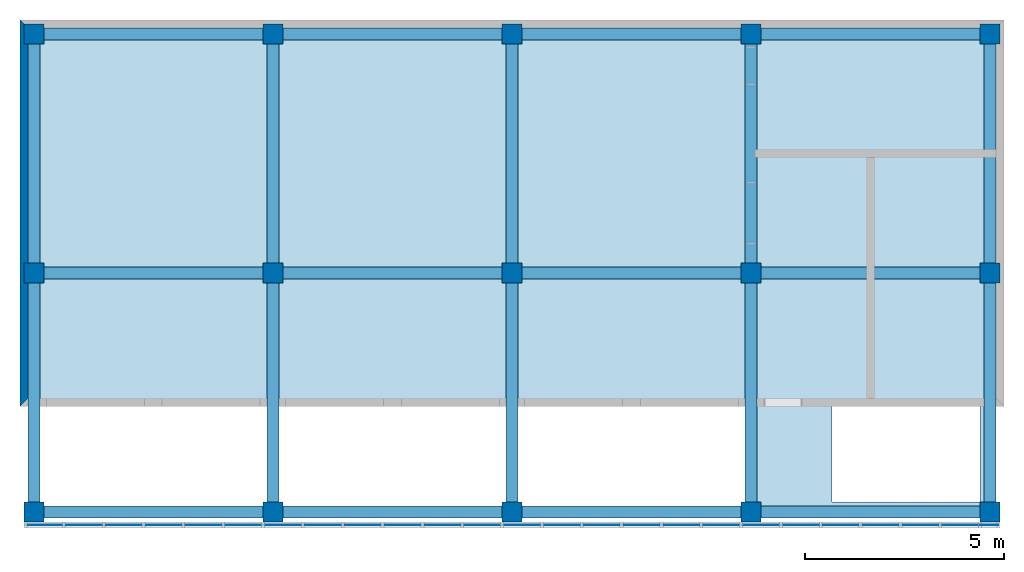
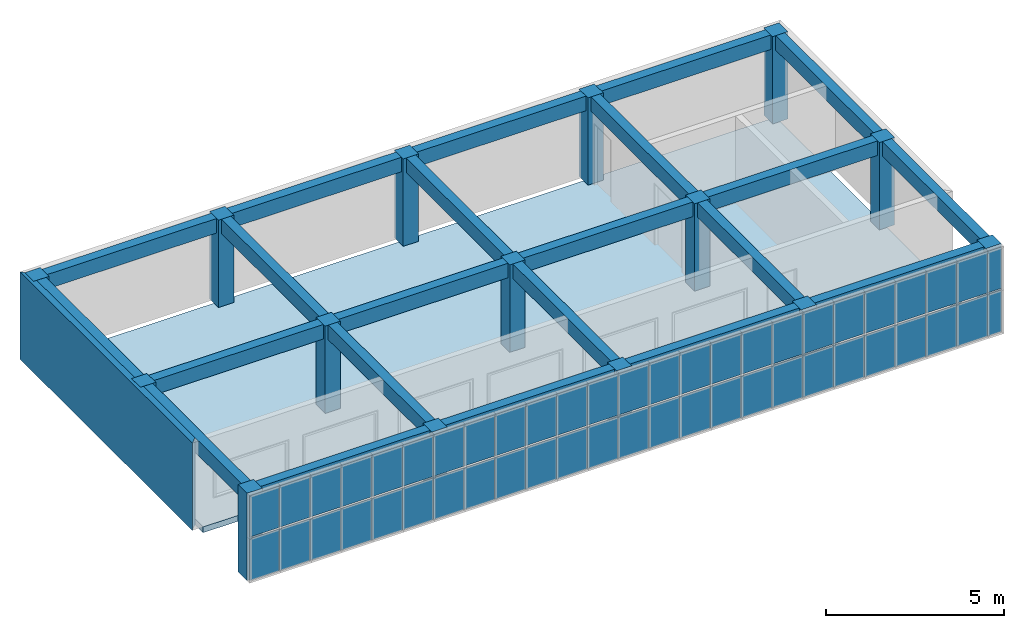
# One storey, part 1 of 4: 50 plates, 22 beams, 15 columns, 1 slab, 1 wall, 1 opening, 1 element without a shape of its own.
"""IFC2X3 building model written with IfcOpenShell, lengths in millimetres."""

import ifcopenshell
import ifcopenshell.guid

model = None  # the IFC model being written
_history = None  # IfcOwnerHistory: only IFC2X3 demands one
_inside = {}  # id of a spatial element -> (the spatial element, [elements in it])
_under = {}  # id of a project, library or spatial element -> (it, [spatial elements below it])
_declared = {}  # id of a project -> (the project, [libraries it declares])
_typed = {}  # id of a type object -> (the type object, [elements of that type])
_made_of = {}  # id of a material, layer set ... -> (it, [elements and type objects made of it])


def new_model(schema):
    """Start an empty IFC model of exactly this schema.

    Asked for "IFC4X3", IfcOpenShell would pick the latest addendum, in which some entities
    have other attributes; the version numbers below select the first issue.
    IFC2X3 requires an IfcOwnerHistory on every rooted entity: one is made here for all.
    """
    global model, _history
    if schema == "IFC4X3":
        model = ifcopenshell.file(schema_version=(4, 3, 0, 0))
    else:
        model = ifcopenshell.file(schema=schema)
    _inside.clear()
    _under.clear()
    _declared.clear()
    _typed.clear()
    _made_of.clear()
    _history = None
    if model.schema == "IFC2X3":
        org = make("IfcOrganization", Name="unknown")
        user = make(
            "IfcPersonAndOrganization",
            ThePerson=make("IfcPerson", FamilyName="unknown"),
            TheOrganization=org,
        )
        app = make(
            "IfcApplication",
            ApplicationDeveloper=org,
            Version="unknown",
            ApplicationFullName="unknown",
            ApplicationIdentifier="unknown",
        )
        _history = make(
            "IfcOwnerHistory",
            OwningUser=user,
            OwningApplication=app,
            ChangeAction="ADDED",
            CreationDate=0,
        )
    return model


def make(cls, **values):
    """One entity of the class cls with the attributes given. An attribute that is None is left unset."""
    return model.create_entity(
        cls, **{name: value for name, value in values.items() if value is not None}
    )


def entity(cls, *values):
    """Any entity or typed value of the class cls, its attributes in the order of the schema. None: left unset."""
    e = model.create_entity(cls)
    for i, value in enumerate(values):
        if value is not None:
            e[i] = value
    return e


def rooted(cls, **values):
    """An entity with a GlobalId (a new one), such as an element, a storey or a relation."""
    return make(cls, GlobalId=ifcopenshell.guid.new(), OwnerHistory=_history, **values)


def si_unit(unit_type, name, prefix=None):
    """IfcSIUnit, for example si_unit("LENGTHUNIT", "METRE", prefix="MILLI")."""
    return make("IfcSIUnit", UnitType=unit_type, Prefix=prefix, Name=name)


def converted_unit(unit_type, name, factor, base, dimensions=None, offset=None):
    """IfcConversionBasedUnit, such as the inch: factor (a typed value) times the base unit."""
    return make(
        "IfcConversionBasedUnit"
        if offset is None
        else "IfcConversionBasedUnitWithOffset",
        ConversionOffset=offset,
        Dimensions=None
        if dimensions is None
        else entity("IfcDimensionalExponents", *dimensions),
        UnitType=unit_type,
        Name=name,
        ConversionFactor=make(
            "IfcMeasureWithUnit", ValueComponent=factor, UnitComponent=base
        ),
    )


def assignment(units):
    """IfcUnitAssignment: the units of a project."""
    return None if units is None else make("IfcUnitAssignment", Units=units)


def point(xyz):
    """IfcCartesianPoint."""
    return None if xyz is None else make("IfcCartesianPoint", Coordinates=xyz)


def direction(xyz):
    """IfcDirection."""
    return None if xyz is None else make("IfcDirection", DirectionRatios=xyz)


def frame(location, z_axis=None, x_axis=None):
    """IfcAxis2Placement3D, a coordinate frame: its origin and axes. An axis left out is left unset."""
    return make(
        "IfcAxis2Placement3D",
        Location=point(location),
        Axis=direction(z_axis),
        RefDirection=direction(x_axis),
    )


def frame_2d(location, x_axis=None):
    """IfcAxis2Placement2D, a coordinate frame in the plane: its origin and x axis."""
    return make(
        "IfcAxis2Placement2D", Location=point(location), RefDirection=direction(x_axis)
    )


def origin_with_axes():
    """The frame at (0, 0, 0) with the z axis (0, 0, 1) and the x axis (1, 0, 0) written out."""
    return frame((0.0, 0.0, 0.0), z_axis=(0.0, 0.0, 1.0), x_axis=(1.0, 0.0, 0.0))


def origin_2d_with_axis():
    """The frame at (0, 0) in the plane with the x axis (1, 0) written out."""
    return frame_2d((0.0, 0.0), x_axis=(1.0, 0.0))


def place(relative_to, where):
    """IfcLocalPlacement: puts the frame where relative to a parent placement (None: the world)."""
    return make(
        "IfcLocalPlacement", PlacementRelTo=relative_to, RelativePlacement=where
    )


def context(
    kind, dimensions, precision=None, world=None, true_north=None, identifier=None
):
    """IfcGeometricRepresentationContext, for example the 3D "Model" context."""
    return make(
        "IfcGeometricRepresentationContext",
        ContextIdentifier=identifier,
        ContextType=kind,
        CoordinateSpaceDimension=dimensions,
        Precision=precision,
        WorldCoordinateSystem=world,
        TrueNorth=true_north,
    )


def project(units=None, contexts=None):
    """IfcProject with its units and contexts."""
    return rooted(
        "IfcProject",
        Name="project",
        RepresentationContexts=contexts,
        UnitsInContext=assignment(units),
    )


def spatial(cls, under=None, at=None, **own):
    """A site, building, storey or space (cls), placed at a placement, below another one or the project."""
    s = rooted(cls, ObjectPlacement=at, **own)
    if under is not None:
        _under.setdefault(under.id(), (under, []))[1].append(s)
    return s


def polyline(points):
    """IfcPolyline through the points."""
    return make("IfcPolyline", Points=[point(p) for p in points])


def profile(cls, at=None, kind="AREA", **sizes):
    """A parametric profile (cls). Its sizes go by their IFC names, for example OverallWidth=200.0."""
    return make(cls, ProfileType=kind, Position=at, **sizes)


def rectangle(**sizes):
    """IfcRectangleProfileDef."""
    return profile("IfcRectangleProfileDef", **sizes)


def outline(outer, holes=None, kind="AREA"):
    """IfcArbitraryClosedProfileDef: a profile drawn as a closed curve; with holes, ...WithVoids."""
    if holes is None:
        return make("IfcArbitraryClosedProfileDef", ProfileType=kind, OuterCurve=outer)
    return make(
        "IfcArbitraryProfileDefWithVoids",
        ProfileType=kind,
        OuterCurve=outer,
        InnerCurves=holes,
    )


def extrude(swept, where, along, depth):
    """IfcExtrudedAreaSolid: the profile swept, set in the frame where, extruded along a direction by depth."""
    return make(
        "IfcExtrudedAreaSolid",
        SweptArea=swept,
        Position=where,
        ExtrudedDirection=direction(along),
        Depth=depth,
    )


def shape(context_of_items, identifier, shape_type, items):
    """IfcShapeRepresentation: the items that make up one representation, for example the "Body"."""
    return make(
        "IfcShapeRepresentation",
        ContextOfItems=context_of_items,
        RepresentationIdentifier=identifier,
        RepresentationType=shape_type,
        Items=items,
    )


def source(mapping_origin, context_of_items, identifier, shape_type, items):
    """IfcRepresentationMap: a shape defined once, which mapped items show again and again."""
    return make(
        "IfcRepresentationMap",
        MappingOrigin=mapping_origin,
        MappedRepresentation=shape(context_of_items, identifier, shape_type, items),
    )


def transform(
    local_origin,
    x_axis=None,
    y_axis=None,
    z_axis=None,
    scale=None,
    scale2=None,
    scale3=None,
    uniform=True,
):
    """IfcCartesianTransformationOperator3D, or its non-uniform kind. x_axis, y_axis, z_axis: its Axis1, 2, 3."""
    if uniform:
        return make(
            "IfcCartesianTransformationOperator3D",
            Axis1=direction(x_axis),
            Axis2=direction(y_axis),
            LocalOrigin=point(local_origin),
            Scale=scale,
            Axis3=direction(z_axis),
        )
    return make(
        "IfcCartesianTransformationOperator3DnonUniform",
        Axis1=direction(x_axis),
        Axis2=direction(y_axis),
        LocalOrigin=point(local_origin),
        Scale=scale,
        Axis3=direction(z_axis),
        Scale2=scale2,
        Scale3=scale3,
    )


def mapped(mapping_source, mapping_target):
    """IfcMappedItem: shows the shape of a source again, moved by a transform."""
    return make(
        "IfcMappedItem", MappingSource=mapping_source, MappingTarget=mapping_target
    )


def material(Name=None, Category=None):
    """IfcMaterial."""
    return make("IfcMaterial", Name=Name, Category=Category)


def layer(
    of_material, thickness, ventilated=None, Name=None, Category=None, Priority=None
):
    """IfcMaterialLayer: one layer of a wall or slab, of a material (None: an air gap)."""
    return make(
        "IfcMaterialLayer",
        Material=of_material,
        LayerThickness=thickness,
        IsVentilated=ventilated,
        Name=Name,
        Category=Category,
        Priority=Priority,
    )


def layer_set(layers, Name=None):
    """IfcMaterialLayerSet."""
    return make("IfcMaterialLayerSet", MaterialLayers=layers, LayerSetName=Name)


def layer_usage(for_layer_set, set_direction, sense, offset, extent=None):
    """IfcMaterialLayerSetUsage: how a layer set lies in its element."""
    return make(
        "IfcMaterialLayerSetUsage",
        ForLayerSet=for_layer_set,
        LayerSetDirection=set_direction,
        DirectionSense=sense,
        OffsetFromReferenceLine=offset,
        ReferenceExtent=extent,
    )


def made_of(thing, what):
    """Note that an element or type object is made of a material, layer set ...; save() writes the relation."""
    if what is not None:
        _made_of.setdefault(what.id(), (what, []))[1].append(thing)
    return thing


def type_object(cls, material=None, **own):
    """A type object (cls), such as IfcWallType, which elements share."""
    return made_of(rooted(cls, **own), material)


def element(
    cls,
    number,
    at=None,
    inside=None,
    cuts=None,
    type_object=None,
    material=None,
    context=None,
    identifier="Body",
    shape_type=None,
    held_by="IfcProductDefinitionShape",
    body=None,
    shapes=None,
    **own,
):
    """One element of the class cls, such as IfcWall. Its Tag is "e" and its number.

    at: its placement. inside: the storey or other place that contains it. cuts: it is an
    opening in that element (IfcRelVoidsElement). A single representation is given by context,
    identifier, shape_type and body (its items); several are given by shapes. held_by: the class
    of the entity that holds the representations. save() writes the other relations.
    """
    e = rooted(cls, Tag="e%d" % number, ObjectPlacement=at, **own)
    if body is not None:
        shapes = [shape(context, identifier, shape_type, body)]
    if shapes is not None:
        e.Representation = make(held_by, Representations=shapes)
    if inside is not None:
        _inside.setdefault(inside.id(), (inside, []))[1].append(e)
    if cuts is not None:
        rooted(
            "IfcRelVoidsElement", RelatingBuildingElement=cuts, RelatedOpeningElement=e
        )
    if type_object is not None:
        _typed.setdefault(type_object.id(), (type_object, []))[1].append(e)
    return made_of(e, material)


def aggregate(whole, parts):
    """IfcRelAggregates: a whole, such as a stair, and the parts it consists of."""
    return rooted("IfcRelAggregates", RelatingObject=whole, RelatedObjects=parts)


def save(model, path):
    """Write the relations noted so far, then the file.

    IfcRelAggregates (storeys below a building ...), IfcRelContainedInSpatialStructure (elements
    in a storey), IfcRelDefinesByType, IfcRelAssociatesMaterial and IfcRelDeclares: one each for
    every whole, place, type object, material and project.
    """
    for whole, parts in _under.values():
        aggregate(whole, parts)
    for where, things in _inside.values():
        rooted(
            "IfcRelContainedInSpatialStructure",
            RelatedElements=things,
            RelatingStructure=where,
        )
    for kind, things in _typed.values():
        rooted("IfcRelDefinesByType", RelatedObjects=things, RelatingType=kind)
    for what, things in _made_of.values():
        rooted("IfcRelAssociatesMaterial", RelatedObjects=things, RelatingMaterial=what)
    for by, libraries in _declared.values():
        rooted("IfcRelDeclares", RelatingContext=by, RelatedDefinitions=libraries)
    model.write(path)


model = new_model("IFC2X3")

# Units and contexts
model_context = context("Model", 3, precision=1e-05, world=origin_with_axes(), true_north=direction((6.123234e-17, 1.0)))
plan_context = context("Plan", 3, precision=1e-05, world=origin_with_axes(), true_north=direction((6.123234e-17, 1.0)))
ifc_project = project(units=[si_unit("LENGTHUNIT", "METRE", prefix="MILLI"), si_unit("AREAUNIT", "SQUARE_METRE"), si_unit("VOLUMEUNIT", "CUBIC_METRE"), converted_unit("PLANEANGLEUNIT", "DEGREE", entity("IfcPlaneAngleMeasure", 0.017453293), si_unit("PLANEANGLEUNIT", "RADIAN"), dimensions=[0, 0, 0, 0, 0, 0, 0]), si_unit("SOLIDANGLEUNIT", "STERADIAN"), si_unit("MASSUNIT", "GRAM"), si_unit("TIMEUNIT", "SECOND"), si_unit("THERMODYNAMICTEMPERATUREUNIT", "DEGREE_CELSIUS"), si_unit("LUMINOUSINTENSITYUNIT", "LUMEN")], contexts=[model_context, plan_context])

# Site, building, storey
site_placement = place(None, origin_with_axes())
site = spatial("IfcSite", under=ifc_project, at=site_placement, Name="\x8aO\x8d\\", CompositionType="ELEMENT")
building_placement = place(site_placement, origin_with_axes())
building = spatial("IfcBuilding", under=site, at=building_placement, Name="20101105_ArchCADMagic_002", CompositionType="ELEMENT")
storey_placement = place(building_placement, frame((0.0, 0.0, 3450.0), z_axis=(0.0, 0.0, 1.0), x_axis=(1.0, 0.0, 0.0)))
storey = spatial("IfcBuildingStorey", under=building, at=storey_placement, Name="1. 2\x8aK", CompositionType="ELEMENT", Elevation=3450.0)

# Columns
ifc_material = material(Name="\x83R\x83\x93\x83N\x83\x8a\x81[\x83g-\x8d\\\x91¢2")
for number, where, z_axis, x_axis, name in (
    (1, (0.0, 0.0, 0.0), (0.0, 0.0, 1.0), (1.0, 0.0, 0.0), "C2"),
    (2, (-1.669355e-12, 6000.0, 0.0), (0.0, 0.0, 1.0), (1.0, 0.0, 0.0), "C1"),
    (3, (-7.044814e-13, 12000.0, 0.0), (0.0, 0.0, 1.0), (1.0, 0.0, 0.0), "C2"),
    (4, (6000.0, 0.0, 0.0), (0.0, 0.0, 1.0), (1.0, 0.0, 0.0), "C3"),
    (5, (6000.0, 6000.0, 0.0), (0.0, 0.0, 1.0), (1.0, 0.0, 0.0), "C4"),
    (6, (6000.0, 12000.0, 0.0), (0.0, 0.0, 1.0), (1.0, 0.0, 0.0), "C5"),
    (7, (12000.0, 0.0, 0.0), (0.0, 0.0, 1.0), (1.0, 0.0, 0.0), "C6"),
    (8, (12000.0, 6000.0, 0.0), (0.0, 0.0, 1.0), (1.0, 0.0, 0.0), "C7"),
    (9, (12000.0, 12000.0, 0.0), (0.0, 0.0, 1.0), (1.0, 0.0, 0.0), "C8"),
    (10, (18000.0, 0.0, 0.0), (0.0, 0.0, 1.0), (1.0, 0.0, 0.0), "C9"),
    (11, (18000.0, 6000.0, 0.0), (0.0, 0.0, 1.0), (1.0, 0.0, 0.0), "C0"),
    (12, (18000.0, 12000.0, 0.0), (0.0, 0.0, 1.0), (1.0, 0.0, 0.0), "C1"),
    (13, (24000.0, 0.0, 0.0), (0.0, 0.0, 1.0), (1.0, 0.0, 0.0), "C2"),
    (14, (24000.0, 6000.0, 0.0), (0.0, 0.0, 1.0), (1.0, 0.0, 0.0), "C3"),
    (15, (24000.0, 12000.0, 0.0), (0.0, 0.0, 1.0), (1.0, 0.0, 0.0), "C4"),
):
    element("IfcColumn", number, at=place(storey_placement, frame(where, z_axis=z_axis, x_axis=x_axis)), inside=storey, material=ifc_material, Name=name, context=model_context, shape_type="SweptSolid", body=[
        extrude(rectangle(XDim=500.0, YDim=500.0, at=origin_2d_with_axis()), origin_with_axes(), (0.0, 0.0, 1.0), 3000.0),
    ])

# Beams
for number, where, z_axis, x_axis, name in (
    (16, (18000.0, 12000.0, 3000.0), (0.0, 0.0, 1.0), (0.0, -1.0, 0.0), "G6"),
    (17, (18000.0, 6000.0, 3000.0), (0.0, 0.0, 1.0), (0.0, -1.0, 0.0), "G6"),
    (18, (0.0, 0.0, 3000.0), (0.0, 0.0, 1.0), (1.0, 0.0, 0.0), "G2"),
    (19, (-1.669355e-12, 6000.0, 3000.0), (0.0, 0.0, 1.0), (1.0, 0.0, 0.0), "G2"),
    (20, (6000.0, 0.0, 3000.0), (0.0, 0.0, 1.0), (1.0, 0.0, 0.0), "G2"),
    (21, (6000.0, 6000.0, 3000.0), (0.0, 0.0, 1.0), (1.0, 0.0, 0.0), "G2"),
    (22, (12000.0, 0.0, 3000.0), (0.0, 0.0, 1.0), (1.0, 0.0, 0.0), "G2"),
    (23, (12000.0, 6000.0, 3000.0), (0.0, 0.0, 1.0), (1.0, 0.0, 0.0), "G2"),
    (24, (18000.0, 0.0, 3000.0), (0.0, 0.0, 1.0), (1.0, 0.0, 0.0), "G2"),
    (25, (18000.0, 6000.0, 3000.0), (0.0, 0.0, 1.0), (1.0, 0.0, 0.0), "G2"),
    (26, (24000.0, 0.0, 3000.0), (0.0, 0.0, 1.0), (1.0, 0.0, 0.0), "G2"),
    (27, (24000.0, 6000.0, 3000.0), (0.0, 0.0, 1.0), (1.0, 0.0, 0.0), "G2"),
    (28, (0.0, 0.0, 3000.0), (0.0, 0.0, 1.0), (0.0, -1.0, 0.0), "G6"),
    (29, (8.8817842e-13, 6000.0, 3000.0), (0.0, 0.0, 1.0), (0.0, -1.0, 0.0), "G6"),
    (30, (1.7763568e-12, 12000.0, 3000.0), (0.0, 0.0, 1.0), (0.0, -1.0, 0.0), "G6"),
    (31, (6000.0, 0.0, 3000.0), (0.0, 0.0, 1.0), (0.0, -1.0, 0.0), "G6"),
    (32, (6000.0, 6000.0, 3000.0), (0.0, 0.0, 1.0), (0.0, -1.0, 0.0), "G6"),
    (33, (6000.0, 12000.0, 3000.0), (0.0, 0.0, 1.0), (0.0, -1.0, 0.0), "G6"),
    (34, (12000.0, 0.0, 3000.0), (0.0, 0.0, 1.0), (0.0, -1.0, 0.0), "G6"),
    (35, (12000.0, 6000.0, 3000.0), (0.0, 0.0, 1.0), (0.0, -1.0, 0.0), "G6"),
    (36, (12000.0, 12000.0, 3000.0), (0.0, 0.0, 1.0), (0.0, -1.0, 0.0), "G6"),
    (37, (18000.0, 0.0, 3000.0), (0.0, 0.0, 1.0), (0.0, -1.0, 0.0), "G6"),
):
    element("IfcBeam", number, at=place(storey_placement, frame(where, z_axis=z_axis, x_axis=x_axis)), inside=storey, material=ifc_material, Name=name, context=model_context, shape_type="SweptSolid", body=[
        extrude(rectangle(XDim=500.0, YDim=300.0, at=frame_2d((-250.0, 0.0), x_axis=(1.0, 0.0))), frame((0.0, 0.0, 0.0), z_axis=(0.0, 1.0, 0.0), x_axis=(0.0, 0.0, 1.0)), (0.0, 0.0, 1.0), 6000.0),
    ])

# Curtain wall, plates
curtain_wall_placement = place(storey_placement, frame((-250.0, -325.0, 0.0), z_axis=(0.0, 0.0, 1.0), x_axis=(1.0, 0.0, 0.0)))
curtain_wall = element("IfcCurtainWall", 38, at=curtain_wall_placement, inside=storey, Name="CW5")
plate_type = type_object("IfcPlateType", Name="AC12_CW_Panel", PredefinedType="NOTDEFINED")
shared_shape_1 = source(origin_with_axes(), model_context, "Body", "SweptSolid", [
    extrude(outline(polyline([(0.0, 0.0), (955.0, 0.0), (955.0, -20.0), (0.0, -20.0), (0.0, 0.0)])), origin_with_axes(), (0.0, 0.0, 1.0), 1430.0),
])
plate_1_placement = place(storey_placement, frame((-210.0, -315.0, 40.0), z_axis=(0.0, 0.0, 1.0), x_axis=(1.0, 0.0, 0.0)))
plate_1 = element("IfcPlate", 39, at=plate_1_placement, type_object=plate_type, Name="\x83\x81\x83C\x83\x93-511", context=model_context, shape_type="MappedRepresentation", body=[
    mapped(shared_shape_1, transform((0.0, 0.0, 0.0), scale=1.0)),
])
plate_2_placement = place(storey_placement, frame((-210.0, -315.0, 1530.0), z_axis=(0.0, 0.0, 1.0), x_axis=(1.0, 0.0, 0.0)))
plate_2 = element("IfcPlate", 40, at=plate_2_placement, type_object=plate_type, Name="\x83\x81\x83C\x83\x93-536", context=model_context, shape_type="MappedRepresentation", body=[
    mapped(shared_shape_1, transform((0.0, 0.0, 0.0), scale=1.0)),
])
shared_shape_2 = source(origin_with_axes(), model_context, "Body", "SweptSolid", [
    extrude(outline(polyline([(0.0, 0.0), (990.0, 0.0), (990.0, -20.0), (0.0, -20.0), (0.0, 0.0)])), origin_with_axes(), (0.0, 0.0, 1.0), 1430.0),
])
plate_3_placement = place(storey_placement, frame((755.0, -315.0, 40.0), z_axis=(0.0, 0.0, 1.0), x_axis=(1.0, 0.0, 0.0)))
plate_3 = element("IfcPlate", 41, at=plate_3_placement, type_object=plate_type, Name="\x83\x81\x83C\x83\x93-512", context=model_context, shape_type="MappedRepresentation", body=[
    mapped(shared_shape_2, transform((0.0, 0.0, 0.0), scale=1.0)),
])
plate_4_placement = place(storey_placement, frame((1755.0, -315.0, 40.0), z_axis=(0.0, 0.0, 1.0), x_axis=(1.0, 0.0, 0.0)))
plate_4 = element("IfcPlate", 42, at=plate_4_placement, type_object=plate_type, Name="\x83\x81\x83C\x83\x93-513", context=model_context, shape_type="MappedRepresentation", body=[
    mapped(shared_shape_2, transform((0.0, 0.0, 0.0), scale=1.0)),
])
plate_5_placement = place(storey_placement, frame((2755.0, -315.0, 40.0), z_axis=(0.0, 0.0, 1.0), x_axis=(1.0, 0.0, 0.0)))
plate_5 = element("IfcPlate", 43, at=plate_5_placement, type_object=plate_type, Name="\x83\x81\x83C\x83\x93-514", context=model_context, shape_type="MappedRepresentation", body=[
    mapped(shared_shape_2, transform((0.0, 0.0, 0.0), scale=1.0)),
])
plate_6_placement = place(storey_placement, frame((3755.0, -315.0, 40.0), z_axis=(0.0, 0.0, 1.0), x_axis=(1.0, 0.0, 0.0)))
plate_6 = element("IfcPlate", 44, at=plate_6_placement, type_object=plate_type, Name="\x83\x81\x83C\x83\x93-515", context=model_context, shape_type="MappedRepresentation", body=[
    mapped(shared_shape_2, transform((0.0, 0.0, 0.0), scale=1.0)),
])
plate_7_placement = place(storey_placement, frame((4755.0, -315.0, 40.0), z_axis=(0.0, 0.0, 1.0), x_axis=(1.0, 0.0, 0.0)))
plate_7 = element("IfcPlate", 45, at=plate_7_placement, type_object=plate_type, Name="\x83\x81\x83C\x83\x93-516", context=model_context, shape_type="MappedRepresentation", body=[
    mapped(shared_shape_2, transform((0.0, 0.0, 0.0), scale=1.0)),
])
plate_8_placement = place(storey_placement, frame((5755.0, -315.0, 40.0), z_axis=(0.0, 0.0, 1.0), x_axis=(1.0, 0.0, 0.0)))
plate_8 = element("IfcPlate", 46, at=plate_8_placement, type_object=plate_type, Name="\x83\x81\x83C\x83\x93-517", context=model_context, shape_type="MappedRepresentation", body=[
    mapped(shared_shape_2, transform((0.0, 0.0, 0.0), scale=1.0)),
])
plate_9_placement = place(storey_placement, frame((6755.0, -315.0, 40.0), z_axis=(0.0, 0.0, 1.0), x_axis=(1.0, 0.0, 0.0)))
plate_9 = element("IfcPlate", 47, at=plate_9_placement, type_object=plate_type, Name="\x83\x81\x83C\x83\x93-518", context=model_context, shape_type="MappedRepresentation", body=[
    mapped(shared_shape_2, transform((0.0, 0.0, 0.0), scale=1.0)),
])
plate_10_placement = place(storey_placement, frame((7755.0, -315.0, 40.0), z_axis=(0.0, 0.0, 1.0), x_axis=(1.0, 0.0, 0.0)))
plate_10 = element("IfcPlate", 48, at=plate_10_placement, type_object=plate_type, Name="\x83\x81\x83C\x83\x93-519", context=model_context, shape_type="MappedRepresentation", body=[
    mapped(shared_shape_2, transform((0.0, 0.0, 0.0), scale=1.0)),
])
plate_11_placement = place(storey_placement, frame((8755.0, -315.0, 40.0), z_axis=(0.0, 0.0, 1.0), x_axis=(1.0, 0.0, 0.0)))
plate_11 = element("IfcPlate", 49, at=plate_11_placement, type_object=plate_type, Name="\x83\x81\x83C\x83\x93-520", context=model_context, shape_type="MappedRepresentation", body=[
    mapped(shared_shape_2, transform((0.0, 0.0, 0.0), scale=1.0)),
])
plate_12_placement = place(storey_placement, frame((9755.0, -315.0, 40.0), z_axis=(0.0, 0.0, 1.0), x_axis=(1.0, 0.0, 0.0)))
plate_12 = element("IfcPlate", 50, at=plate_12_placement, type_object=plate_type, Name="\x83\x81\x83C\x83\x93-521", context=model_context, shape_type="MappedRepresentation", body=[
    mapped(shared_shape_2, transform((0.0, 0.0, 0.0), scale=1.0)),
])
plate_13_placement = place(storey_placement, frame((10755.0, -315.0, 40.0), z_axis=(0.0, 0.0, 1.0), x_axis=(1.0, 0.0, 0.0)))
plate_13 = element("IfcPlate", 51, at=plate_13_placement, type_object=plate_type, Name="\x83\x81\x83C\x83\x93-522", context=model_context, shape_type="MappedRepresentation", body=[
    mapped(shared_shape_2, transform((0.0, 0.0, 0.0), scale=1.0)),
])
plate_14_placement = place(storey_placement, frame((11755.0, -315.0, 40.0), z_axis=(0.0, 0.0, 1.0), x_axis=(1.0, 0.0, 0.0)))
plate_14 = element("IfcPlate", 52, at=plate_14_placement, type_object=plate_type, Name="\x83\x81\x83C\x83\x93-523", context=model_context, shape_type="MappedRepresentation", body=[
    mapped(shared_shape_2, transform((0.0, 0.0, 0.0), scale=1.0)),
])
plate_15_placement = place(storey_placement, frame((12755.0, -315.0, 40.0), z_axis=(0.0, 0.0, 1.0), x_axis=(1.0, 0.0, 0.0)))
plate_15 = element("IfcPlate", 53, at=plate_15_placement, type_object=plate_type, Name="\x83\x81\x83C\x83\x93-524", context=model_context, shape_type="MappedRepresentation", body=[
    mapped(shared_shape_2, transform((0.0, 0.0, 0.0), scale=1.0)),
])
plate_16_placement = place(storey_placement, frame((13755.0, -315.0, 40.0), z_axis=(0.0, 0.0, 1.0), x_axis=(1.0, 0.0, 0.0)))
plate_16 = element("IfcPlate", 54, at=plate_16_placement, type_object=plate_type, Name="\x83\x81\x83C\x83\x93-525", context=model_context, shape_type="MappedRepresentation", body=[
    mapped(shared_shape_2, transform((0.0, 0.0, 0.0), scale=1.0)),
])
plate_17_placement = place(storey_placement, frame((14755.0, -315.0, 40.0), z_axis=(0.0, 0.0, 1.0), x_axis=(1.0, 0.0, 0.0)))
plate_17 = element("IfcPlate", 55, at=plate_17_placement, type_object=plate_type, Name="\x83\x81\x83C\x83\x93-526", context=model_context, shape_type="MappedRepresentation", body=[
    mapped(shared_shape_2, transform((0.0, 0.0, 0.0), scale=1.0)),
])
plate_18_placement = place(storey_placement, frame((15755.0, -315.0, 40.0), z_axis=(0.0, 0.0, 1.0), x_axis=(1.0, 0.0, 0.0)))
plate_18 = element("IfcPlate", 56, at=plate_18_placement, type_object=plate_type, Name="\x83\x81\x83C\x83\x93-527", context=model_context, shape_type="MappedRepresentation", body=[
    mapped(shared_shape_2, transform((0.0, 0.0, 0.0), scale=1.0)),
])
plate_19_placement = place(storey_placement, frame((16755.0, -315.0, 40.0), z_axis=(0.0, 0.0, 1.0), x_axis=(1.0, 0.0, 0.0)))
plate_19 = element("IfcPlate", 57, at=plate_19_placement, type_object=plate_type, Name="\x83\x81\x83C\x83\x93-528", context=model_context, shape_type="MappedRepresentation", body=[
    mapped(shared_shape_2, transform((0.0, 0.0, 0.0), scale=1.0)),
])
plate_20_placement = place(storey_placement, frame((17755.0, -315.0, 40.0), z_axis=(0.0, 0.0, 1.0), x_axis=(1.0, 0.0, 0.0)))
plate_20 = element("IfcPlate", 58, at=plate_20_placement, type_object=plate_type, Name="\x83\x81\x83C\x83\x93-529", context=model_context, shape_type="MappedRepresentation", body=[
    mapped(shared_shape_2, transform((0.0, 0.0, 0.0), scale=1.0)),
])
plate_21_placement = place(storey_placement, frame((18755.0, -315.0, 40.0), z_axis=(0.0, 0.0, 1.0), x_axis=(1.0, 0.0, 0.0)))
plate_21 = element("IfcPlate", 59, at=plate_21_placement, type_object=plate_type, Name="\x83\x81\x83C\x83\x93-530", context=model_context, shape_type="MappedRepresentation", body=[
    mapped(shared_shape_2, transform((0.0, 0.0, 0.0), scale=1.0)),
])
plate_22_placement = place(storey_placement, frame((19755.0, -315.0, 40.0), z_axis=(0.0, 0.0, 1.0), x_axis=(1.0, 0.0, 0.0)))
plate_22 = element("IfcPlate", 60, at=plate_22_placement, type_object=plate_type, Name="\x83\x81\x83C\x83\x93-531", context=model_context, shape_type="MappedRepresentation", body=[
    mapped(shared_shape_2, transform((0.0, 0.0, 0.0), scale=1.0)),
])
plate_23_placement = place(storey_placement, frame((20755.0, -315.0, 40.0), z_axis=(0.0, 0.0, 1.0), x_axis=(1.0, 0.0, 0.0)))
plate_23 = element("IfcPlate", 61, at=plate_23_placement, type_object=plate_type, Name="\x83\x81\x83C\x83\x93-532", context=model_context, shape_type="MappedRepresentation", body=[
    mapped(shared_shape_2, transform((0.0, 0.0, 0.0), scale=1.0)),
])
plate_24_placement = place(storey_placement, frame((21755.0, -315.0, 40.0), z_axis=(0.0, 0.0, 1.0), x_axis=(1.0, 0.0, 0.0)))
plate_24 = element("IfcPlate", 62, at=plate_24_placement, type_object=plate_type, Name="\x83\x81\x83C\x83\x93-533", context=model_context, shape_type="MappedRepresentation", body=[
    mapped(shared_shape_2, transform((0.0, 0.0, 0.0), scale=1.0)),
])
plate_25_placement = place(storey_placement, frame((22755.0, -315.0, 40.0), z_axis=(0.0, 0.0, 1.0), x_axis=(1.0, 0.0, 0.0)))
plate_25 = element("IfcPlate", 63, at=plate_25_placement, type_object=plate_type, Name="\x83\x81\x83C\x83\x93-534", context=model_context, shape_type="MappedRepresentation", body=[
    mapped(shared_shape_2, transform((0.0, 0.0, 0.0), scale=1.0)),
])
plate_26_placement = place(storey_placement, frame((755.0, -315.0, 1530.0), z_axis=(0.0, 0.0, 1.0), x_axis=(1.0, 0.0, 0.0)))
plate_26 = element("IfcPlate", 64, at=plate_26_placement, type_object=plate_type, Name="\x83\x81\x83C\x83\x93-537", context=model_context, shape_type="MappedRepresentation", body=[
    mapped(shared_shape_2, transform((0.0, 0.0, 0.0), scale=1.0)),
])
plate_27_placement = place(storey_placement, frame((1755.0, -315.0, 1530.0), z_axis=(0.0, 0.0, 1.0), x_axis=(1.0, 0.0, 0.0)))
plate_27 = element("IfcPlate", 65, at=plate_27_placement, type_object=plate_type, Name="\x83\x81\x83C\x83\x93-538", context=model_context, shape_type="MappedRepresentation", body=[
    mapped(shared_shape_2, transform((0.0, 0.0, 0.0), scale=1.0)),
])
plate_28_placement = place(storey_placement, frame((2755.0, -315.0, 1530.0), z_axis=(0.0, 0.0, 1.0), x_axis=(1.0, 0.0, 0.0)))
plate_28 = element("IfcPlate", 66, at=plate_28_placement, type_object=plate_type, Name="\x83\x81\x83C\x83\x93-539", context=model_context, shape_type="MappedRepresentation", body=[
    mapped(shared_shape_2, transform((0.0, 0.0, 0.0), scale=1.0)),
])
plate_29_placement = place(storey_placement, frame((3755.0, -315.0, 1530.0), z_axis=(0.0, 0.0, 1.0), x_axis=(1.0, 0.0, 0.0)))
plate_29 = element("IfcPlate", 67, at=plate_29_placement, type_object=plate_type, Name="\x83\x81\x83C\x83\x93-540", context=model_context, shape_type="MappedRepresentation", body=[
    mapped(shared_shape_2, transform((0.0, 0.0, 0.0), scale=1.0)),
])
plate_30_placement = place(storey_placement, frame((4755.0, -315.0, 1530.0), z_axis=(0.0, 0.0, 1.0), x_axis=(1.0, 0.0, 0.0)))
plate_30 = element("IfcPlate", 68, at=plate_30_placement, type_object=plate_type, Name="\x83\x81\x83C\x83\x93-541", context=model_context, shape_type="MappedRepresentation", body=[
    mapped(shared_shape_2, transform((0.0, 0.0, 0.0), scale=1.0)),
])
plate_31_placement = place(storey_placement, frame((5755.0, -315.0, 1530.0), z_axis=(0.0, 0.0, 1.0), x_axis=(1.0, 0.0, 0.0)))
plate_31 = element("IfcPlate", 69, at=plate_31_placement, type_object=plate_type, Name="\x83\x81\x83C\x83\x93-542", context=model_context, shape_type="MappedRepresentation", body=[
    mapped(shared_shape_2, transform((0.0, 0.0, 0.0), scale=1.0)),
])
plate_32_placement = place(storey_placement, frame((6755.0, -315.0, 1530.0), z_axis=(0.0, 0.0, 1.0), x_axis=(1.0, 0.0, 0.0)))
plate_32 = element("IfcPlate", 70, at=plate_32_placement, type_object=plate_type, Name="\x83\x81\x83C\x83\x93-543", context=model_context, shape_type="MappedRepresentation", body=[
    mapped(shared_shape_2, transform((0.0, 0.0, 0.0), scale=1.0)),
])
plate_33_placement = place(storey_placement, frame((7755.0, -315.0, 1530.0), z_axis=(0.0, 0.0, 1.0), x_axis=(1.0, 0.0, 0.0)))
plate_33 = element("IfcPlate", 71, at=plate_33_placement, type_object=plate_type, Name="\x83\x81\x83C\x83\x93-544", context=model_context, shape_type="MappedRepresentation", body=[
    mapped(shared_shape_2, transform((0.0, 0.0, 0.0), scale=1.0)),
])
plate_34_placement = place(storey_placement, frame((8755.0, -315.0, 1530.0), z_axis=(0.0, 0.0, 1.0), x_axis=(1.0, 0.0, 0.0)))
plate_34 = element("IfcPlate", 72, at=plate_34_placement, type_object=plate_type, Name="\x83\x81\x83C\x83\x93-545", context=model_context, shape_type="MappedRepresentation", body=[
    mapped(shared_shape_2, transform((0.0, 0.0, 0.0), scale=1.0)),
])
plate_35_placement = place(storey_placement, frame((9755.0, -315.0, 1530.0), z_axis=(0.0, 0.0, 1.0), x_axis=(1.0, 0.0, 0.0)))
plate_35 = element("IfcPlate", 73, at=plate_35_placement, type_object=plate_type, Name="\x83\x81\x83C\x83\x93-546", context=model_context, shape_type="MappedRepresentation", body=[
    mapped(shared_shape_2, transform((0.0, 0.0, 0.0), scale=1.0)),
])
plate_36_placement = place(storey_placement, frame((10755.0, -315.0, 1530.0), z_axis=(0.0, 0.0, 1.0), x_axis=(1.0, 0.0, 0.0)))
plate_36 = element("IfcPlate", 74, at=plate_36_placement, type_object=plate_type, Name="\x83\x81\x83C\x83\x93-547", context=model_context, shape_type="MappedRepresentation", body=[
    mapped(shared_shape_2, transform((0.0, 0.0, 0.0), scale=1.0)),
])
plate_37_placement = place(storey_placement, frame((11755.0, -315.0, 1530.0), z_axis=(0.0, 0.0, 1.0), x_axis=(1.0, 0.0, 0.0)))
plate_37 = element("IfcPlate", 75, at=plate_37_placement, type_object=plate_type, Name="\x83\x81\x83C\x83\x93-548", context=model_context, shape_type="MappedRepresentation", body=[
    mapped(shared_shape_2, transform((0.0, 0.0, 0.0), scale=1.0)),
])
plate_38_placement = place(storey_placement, frame((12755.0, -315.0, 1530.0), z_axis=(0.0, 0.0, 1.0), x_axis=(1.0, 0.0, 0.0)))
plate_38 = element("IfcPlate", 76, at=plate_38_placement, type_object=plate_type, Name="\x83\x81\x83C\x83\x93-549", context=model_context, shape_type="MappedRepresentation", body=[
    mapped(shared_shape_2, transform((0.0, 0.0, 0.0), scale=1.0)),
])
plate_39_placement = place(storey_placement, frame((13755.0, -315.0, 1530.0), z_axis=(0.0, 0.0, 1.0), x_axis=(1.0, 0.0, 0.0)))
plate_39 = element("IfcPlate", 77, at=plate_39_placement, type_object=plate_type, Name="\x83\x81\x83C\x83\x93-550", context=model_context, shape_type="MappedRepresentation", body=[
    mapped(shared_shape_2, transform((0.0, 0.0, 0.0), scale=1.0)),
])
plate_40_placement = place(storey_placement, frame((14755.0, -315.0, 1530.0), z_axis=(0.0, 0.0, 1.0), x_axis=(1.0, 0.0, 0.0)))
plate_40 = element("IfcPlate", 78, at=plate_40_placement, type_object=plate_type, Name="\x83\x81\x83C\x83\x93-551", context=model_context, shape_type="MappedRepresentation", body=[
    mapped(shared_shape_2, transform((0.0, 0.0, 0.0), scale=1.0)),
])
plate_41_placement = place(storey_placement, frame((15755.0, -315.0, 1530.0), z_axis=(0.0, 0.0, 1.0), x_axis=(1.0, 0.0, 0.0)))
plate_41 = element("IfcPlate", 79, at=plate_41_placement, type_object=plate_type, Name="\x83\x81\x83C\x83\x93-552", context=model_context, shape_type="MappedRepresentation", body=[
    mapped(shared_shape_2, transform((0.0, 0.0, 0.0), scale=1.0)),
])
plate_42_placement = place(storey_placement, frame((16755.0, -315.0, 1530.0), z_axis=(0.0, 0.0, 1.0), x_axis=(1.0, 0.0, 0.0)))
plate_42 = element("IfcPlate", 80, at=plate_42_placement, type_object=plate_type, Name="\x83\x81\x83C\x83\x93-553", context=model_context, shape_type="MappedRepresentation", body=[
    mapped(shared_shape_2, transform((0.0, 0.0, 0.0), scale=1.0)),
])
plate_43_placement = place(storey_placement, frame((17755.0, -315.0, 1530.0), z_axis=(0.0, 0.0, 1.0), x_axis=(1.0, 0.0, 0.0)))
plate_43 = element("IfcPlate", 81, at=plate_43_placement, type_object=plate_type, Name="\x83\x81\x83C\x83\x93-554", context=model_context, shape_type="MappedRepresentation", body=[
    mapped(shared_shape_2, transform((0.0, 0.0, 0.0), scale=1.0)),
])
plate_44_placement = place(storey_placement, frame((18755.0, -315.0, 1530.0), z_axis=(0.0, 0.0, 1.0), x_axis=(1.0, 0.0, 0.0)))
plate_44 = element("IfcPlate", 82, at=plate_44_placement, type_object=plate_type, Name="\x83\x81\x83C\x83\x93-555", context=model_context, shape_type="MappedRepresentation", body=[
    mapped(shared_shape_2, transform((0.0, 0.0, 0.0), scale=1.0)),
])
plate_45_placement = place(storey_placement, frame((19755.0, -315.0, 1530.0), z_axis=(0.0, 0.0, 1.0), x_axis=(1.0, 0.0, 0.0)))
plate_45 = element("IfcPlate", 83, at=plate_45_placement, type_object=plate_type, Name="\x83\x81\x83C\x83\x93-556", context=model_context, shape_type="MappedRepresentation", body=[
    mapped(shared_shape_2, transform((0.0, 0.0, 0.0), scale=1.0)),
])
plate_46_placement = place(storey_placement, frame((20755.0, -315.0, 1530.0), z_axis=(0.0, 0.0, 1.0), x_axis=(1.0, 0.0, 0.0)))
plate_46 = element("IfcPlate", 84, at=plate_46_placement, type_object=plate_type, Name="\x83\x81\x83C\x83\x93-557", context=model_context, shape_type="MappedRepresentation", body=[
    mapped(shared_shape_2, transform((0.0, 0.0, 0.0), scale=1.0)),
])
plate_47_placement = place(storey_placement, frame((21755.0, -315.0, 1530.0), z_axis=(0.0, 0.0, 1.0), x_axis=(1.0, 0.0, 0.0)))
plate_47 = element("IfcPlate", 85, at=plate_47_placement, type_object=plate_type, Name="\x83\x81\x83C\x83\x93-558", context=model_context, shape_type="MappedRepresentation", body=[
    mapped(shared_shape_2, transform((0.0, 0.0, 0.0), scale=1.0)),
])
plate_48_placement = place(storey_placement, frame((22755.0, -315.0, 1530.0), z_axis=(0.0, 0.0, 1.0), x_axis=(1.0, 0.0, 0.0)))
plate_48 = element("IfcPlate", 86, at=plate_48_placement, type_object=plate_type, Name="\x83\x81\x83C\x83\x93-559", context=model_context, shape_type="MappedRepresentation", body=[
    mapped(shared_shape_2, transform((0.0, 0.0, 0.0), scale=1.0)),
])
shared_shape_3 = source(origin_with_axes(), model_context, "Body", "SweptSolid", [
    extrude(outline(polyline([(0.0, 0.0), (455.0, 0.0), (455.0, -20.0), (0.0, -20.0), (0.0, 0.0)])), origin_with_axes(), (0.0, 0.0, 1.0), 1430.0),
])
plate_49_placement = place(storey_placement, frame((23755.0, -315.0, 40.0), z_axis=(0.0, 0.0, 1.0), x_axis=(1.0, 0.0, 0.0)))
plate_49 = element("IfcPlate", 87, at=plate_49_placement, type_object=plate_type, Name="\x83\x81\x83C\x83\x93-535", context=model_context, shape_type="MappedRepresentation", body=[
    mapped(shared_shape_3, transform((0.0, 0.0, 0.0), scale=1.0)),
])
plate_50_placement = place(storey_placement, frame((23755.0, -315.0, 1530.0), z_axis=(0.0, 0.0, 1.0), x_axis=(1.0, 0.0, 0.0)))
plate_50 = element("IfcPlate", 88, at=plate_50_placement, type_object=plate_type, Name="\x83\x81\x83C\x83\x93-560", context=model_context, shape_type="MappedRepresentation", body=[
    mapped(shared_shape_3, transform((0.0, 0.0, 0.0), scale=1.0)),
])
aggregate(curtain_wall, [plate_1, plate_3, plate_4, plate_5, plate_6, plate_7, plate_8, plate_9, plate_10, plate_11, plate_12, plate_13, plate_14, plate_15, plate_16, plate_17, plate_18, plate_19, plate_20, plate_21, plate_22, plate_23, plate_24, plate_25, plate_2, plate_26, plate_27, plate_28, plate_29, plate_30, plate_31, plate_32, plate_33, plate_34, plate_35, plate_36, plate_37, plate_38, plate_39, plate_40, plate_41, plate_42, plate_43, plate_44, plate_45, plate_46, plate_47, plate_48, plate_49, plate_50])

# Slab, opening
ifc_layer = layer(ifc_material, 200.0, ventilated="UNKNOWN")
ifc_layer_set = layer_set([ifc_layer], Name="\x83R\x83\x93\x83N\x83\x8a\x81[\x83g-\x8d\\\x91¢2 200")
ifc_layer_usage_1 = layer_usage(ifc_layer_set, "AXIS3", "NEGATIVE", 200.0)
slab_placement = place(storey_placement, frame((-7.044814e-13, 2650.0, -200.0), z_axis=(0.0, 0.0, 1.0), x_axis=(1.0, 0.0, 0.0)))
slab = element("IfcSlab", 89, at=slab_placement, inside=storey, material=ifc_layer_usage_1, Name="S8", PredefinedType="FLOOR", context=model_context, shape_type="SweptSolid", body=[
    extrude(outline(polyline([(0.0, 0.0), (18000.0, 0.0), (18000.0, -2650.0), (24000.0, -2650.0), (24000.0, 9350.0), (0.0, 9350.0), (0.0, 0.0)])), origin_with_axes(), (0.0, 0.0, 1.0), 200.0),
])
opening_placement = place(slab_placement, origin_with_axes())
element("IfcOpeningElement", 90, at=opening_placement, cuts=slab, context=model_context, shape_type="SweptSolid", body=[
    extrude(outline(polyline([(23750.0, -2400.0), (20034.795, -2400.0), (20034.795, -8.8817842e-13), (23750.0, -8.8817842e-13), (23750.0, -2400.0)])), origin_with_axes(), (0.0, 0.0, 1.0), 200.0),
])

# Wall
ifc_layer_usage_2 = layer_usage(ifc_layer_set, "AXIS2", "NEGATIVE", 100.0)
wall_type = type_object("IfcWallType", Name="\x83R\x83\x93\x83N\x83\x8a\x81[\x83g-\x8d\\\x91¢2 200", PredefinedType="NOTDEFINED", material=ifc_layer_set)
wall_placement = place(storey_placement, frame((-250.0, 12250.0, 0.0), z_axis=(0.0, 0.0, 1.0), x_axis=(0.0, -1.0, 0.0)))
element("IfcWallStandardCase", 91, at=wall_placement, inside=storey, type_object=wall_type, material=ifc_layer_usage_2, Name="W8", context=model_context, shape_type="SweptSolid", body=[
    extrude(outline(polyline([(-100.0, -100.0), (9600.0, -100.0), (9400.0, 100.0), (100.0, 100.0), (-100.0, -100.0)])), origin_with_axes(), (0.0, 0.0, 1.0), 3000.0),
])

save(model, "model.ifc")
